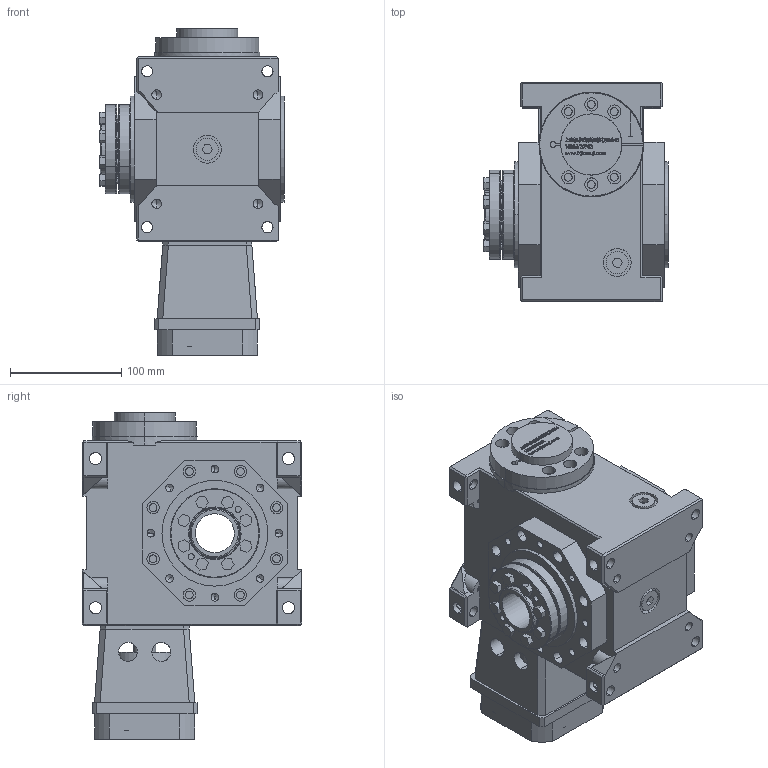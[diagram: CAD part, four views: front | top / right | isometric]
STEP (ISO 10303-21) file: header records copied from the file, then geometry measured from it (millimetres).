
FILE_DESCRIPTION (( 'STEP AP203' ), '1' );
FILE_NAME ('FXLB063-(5~90)-C2-19-70-90-M6.STEP', '2022-11-05T02:45:53', ( '' ), ( '' ), 'SwSTEP 2.0', 'SolidWorks 2020', '' );
FILE_SCHEMA (( 'CONFIG_CONTROL_DESIGN' ));
Products named in the file (1): FXLB063-(5~90)-C2-19-70-90-M6
Bounding box: 165.5 x 197 x 293.2 mm (x, y, z)
Volume: 4161484.5 mm3; surface area: 460174.8 mm2
Topology: 19 solids, 19 shells, 2133 faces, 5470 edges, 3544 vertices
Faces by surface type: plane 1156, cylinder 477, bspline 370, cone 92, torus 38
Entity records: 82355 total; most frequent: CARTESIAN_POINT 32378, ORIENTED_EDGE 10804, DIRECTION 9168, EDGE_CURVE 5402, VERTEX_POINT 3544, VECTOR 3488, LINE 3488, AXIS2_PLACEMENT_3D 2840
